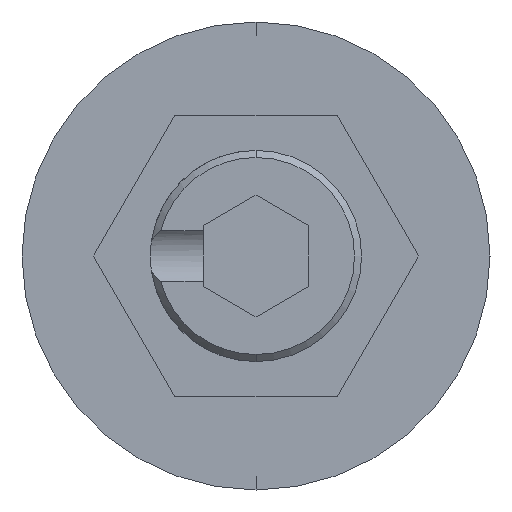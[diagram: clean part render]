
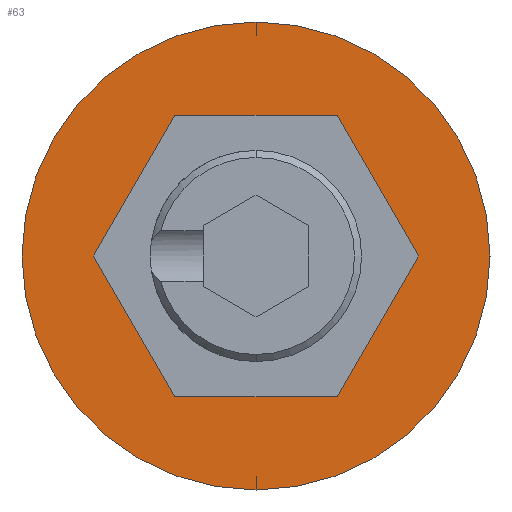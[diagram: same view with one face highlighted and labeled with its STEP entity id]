
A CAD part, front view. The second image highlights one B-rep face of the part: STEP entity #63.
In plain terms, the highlighted planar face has unit normal (0, -1, 0).
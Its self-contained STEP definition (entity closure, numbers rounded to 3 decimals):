
#1 = EDGE_CURVE ( 'NONE', #1647, #757, #428, .T. ) ;
#31 = DIRECTION ( 'NONE',  ( 0., 0., -1. ) ) ;
#63 = ADVANCED_FACE ( 'NONE', ( #248, #142 ), #1218, .T. ) ;
#81 = ORIENTED_EDGE ( 'NONE', *, *, #1884, .F. ) ;
#132 = DIRECTION ( 'NONE',  ( 0.5, 0., 0.866 ) ) ;
#142 = FACE_OUTER_BOUND ( 'NONE', #837, .T. ) ;
#144 = CARTESIAN_POINT ( 'NONE',  ( 2.309, 0., -4. ) ) ;
#182 = ORIENTED_EDGE ( 'NONE', *, *, #1655, .T. ) ;
#248 = FACE_BOUND ( 'NONE', #1793, .T. ) ;
#337 = CARTESIAN_POINT ( 'NONE',  ( 0., 0., -6.65 ) ) ;
#418 = VECTOR ( 'NONE', #603, 1000. ) ;
#428 = LINE ( 'NONE', #1325, #418 ) ;
#442 = ORIENTED_EDGE ( 'NONE', *, *, #1, .F. ) ;
#570 = VERTEX_POINT ( 'NONE', #1879 ) ;
#603 = DIRECTION ( 'NONE',  ( 0.5, 0., -0.866 ) ) ;
#615 = CARTESIAN_POINT ( 'NONE',  ( -2.309, 0., -4. ) ) ;
#639 = VERTEX_POINT ( 'NONE', #951 ) ;
#692 = LINE ( 'NONE', #1280, #1178 ) ;
#700 = AXIS2_PLACEMENT_3D ( 'NONE', #1122, #1174, #1185 ) ;
#733 = CARTESIAN_POINT ( 'NONE',  ( 2.309, 0., -4. ) ) ;
#757 = VERTEX_POINT ( 'NONE', #615 ) ;
#764 = EDGE_CURVE ( 'NONE', #639, #1808, #1264, .T. ) ;
#773 = ORIENTED_EDGE ( 'NONE', *, *, #764, .T. ) ;
#780 = CARTESIAN_POINT ( 'NONE',  ( 4.619, 0., 0. ) ) ;
#829 = DIRECTION ( 'NONE',  ( -0.5, 0., 0.866 ) ) ;
#837 = EDGE_LOOP ( 'NONE', ( #182, #773 ) ) ;
#866 = ORIENTED_EDGE ( 'NONE', *, *, #1943, .F. ) ;
#873 = VECTOR ( 'NONE', #132, 1000. ) ;
#880 = LINE ( 'NONE', #1221, #910 ) ;
#910 = VECTOR ( 'NONE', #1489, 1000. ) ;
#951 = CARTESIAN_POINT ( 'NONE',  ( 0., 0., 6.65 ) ) ;
#968 = CARTESIAN_POINT ( 'NONE',  ( -4.619, 0., 0. ) ) ;
#1034 = VERTEX_POINT ( 'NONE', #733 ) ;
#1064 = EDGE_CURVE ( 'NONE', #570, #2114, #1822, .T. ) ;
#1107 = CARTESIAN_POINT ( 'NONE',  ( 0., 0., 0. ) ) ;
#1122 = CARTESIAN_POINT ( 'NONE',  ( 0., 0., 0. ) ) ;
#1174 = DIRECTION ( 'NONE',  ( 0., -1., 0. ) ) ;
#1178 = VECTOR ( 'NONE', #1272, 1000. ) ;
#1185 = DIRECTION ( 'NONE',  ( 0., 0., -1. ) ) ;
#1186 = ORIENTED_EDGE ( 'NONE', *, *, #1214, .F. ) ;
#1200 = DIRECTION ( 'NONE',  ( 0., -1., 0. ) ) ;
#1214 = EDGE_CURVE ( 'NONE', #2113, #1647, #880, .T. ) ;
#1218 = PLANE ( 'NONE',  #1956 ) ;
#1221 = CARTESIAN_POINT ( 'NONE',  ( -2.309, 0., 4. ) ) ;
#1264 = CIRCLE ( 'NONE', #1557, 6.65 ) ;
#1272 = DIRECTION ( 'NONE',  ( 1., 0., 0. ) ) ;
#1280 = CARTESIAN_POINT ( 'NONE',  ( -2.309, 0., -4. ) ) ;
#1325 = CARTESIAN_POINT ( 'NONE',  ( -4.619, 0., 0. ) ) ;
#1403 = CIRCLE ( 'NONE', #700, 6.65 ) ;
#1489 = DIRECTION ( 'NONE',  ( -0.5, 0., -0.866 ) ) ;
#1494 = DIRECTION ( 'NONE',  ( 0., -1., 0. ) ) ;
#1522 = CARTESIAN_POINT ( 'NONE',  ( 0., 0., 0. ) ) ;
#1557 = AXIS2_PLACEMENT_3D ( 'NONE', #1522, #1494, #1878 ) ;
#1616 = VECTOR ( 'NONE', #1971, 1000. ) ;
#1622 = VECTOR ( 'NONE', #829, 1000. ) ;
#1647 = VERTEX_POINT ( 'NONE', #968 ) ;
#1655 = EDGE_CURVE ( 'NONE', #1808, #639, #1403, .T. ) ;
#1672 = CARTESIAN_POINT ( 'NONE',  ( 2.309, 0., 4. ) ) ;
#1734 = LINE ( 'NONE', #144, #873 ) ;
#1793 = EDGE_LOOP ( 'NONE', ( #866, #442, #1186, #1811, #2110, #81 ) ) ;
#1808 = VERTEX_POINT ( 'NONE', #337 ) ;
#1811 = ORIENTED_EDGE ( 'NONE', *, *, #2095, .F. ) ;
#1822 = LINE ( 'NONE', #780, #1622 ) ;
#1878 = DIRECTION ( 'NONE',  ( 0., 0., -1. ) ) ;
#1879 = CARTESIAN_POINT ( 'NONE',  ( 4.619, 0., 0. ) ) ;
#1884 = EDGE_CURVE ( 'NONE', #1034, #570, #1734, .T. ) ;
#1943 = EDGE_CURVE ( 'NONE', #757, #1034, #692, .T. ) ;
#1956 = AXIS2_PLACEMENT_3D ( 'NONE', #1107, #1200, #31 ) ;
#1971 = DIRECTION ( 'NONE',  ( -1., 0., 0. ) ) ;
#1989 = LINE ( 'NONE', #1672, #1616 ) ;
#2013 = CARTESIAN_POINT ( 'NONE',  ( 2.309, 0., 4. ) ) ;
#2038 = CARTESIAN_POINT ( 'NONE',  ( -2.309, 0., 4. ) ) ;
#2095 = EDGE_CURVE ( 'NONE', #2114, #2113, #1989, .T. ) ;
#2110 = ORIENTED_EDGE ( 'NONE', *, *, #1064, .F. ) ;
#2113 = VERTEX_POINT ( 'NONE', #2038 ) ;
#2114 = VERTEX_POINT ( 'NONE', #2013 ) ;
